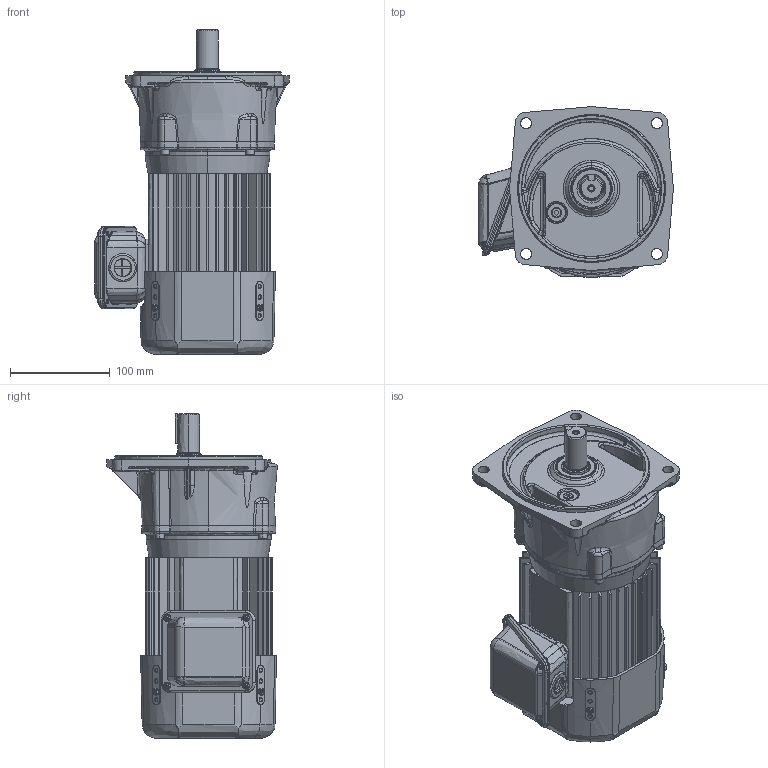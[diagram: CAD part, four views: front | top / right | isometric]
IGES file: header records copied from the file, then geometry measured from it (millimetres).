
Start section: SolidWorks IGES file using analytic representation for surfaces
Global section: file name: \\100.100.100.8\1_共有作業フォルダ\1-5_３Ｄデータ\solidworks\personal-folder\H.Nagayama\SGP1外形\P1(3D)\igs\TMF2-04-(5~25).IGS; native system: SolidWorks 2018; preprocessor: SolidWorks 2018; author: sigma-giken; date: 200508.141614; units: millimetre
Bounding box: 195 x 170.86 x 324.5 mm (x, y, z)
Surface area: 434881.9 mm2 (no closed solid volume)
Topology: 0 solids, 0 shells, 1770 faces, 22896 edges, 22872 vertices
Faces by surface type: bspline 955, revolution 815
